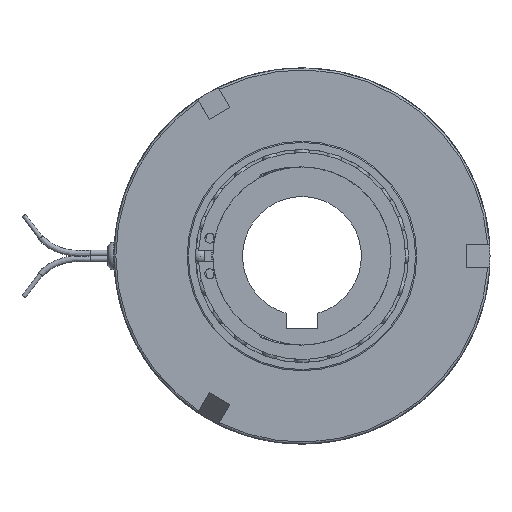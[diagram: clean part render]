
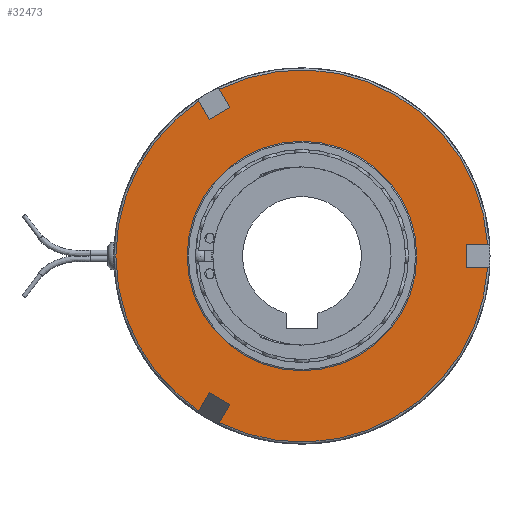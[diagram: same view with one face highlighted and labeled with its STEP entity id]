
A CAD part, left-side view. The second image highlights one B-rep face of the part: STEP entity #32473.
In plain terms, the highlighted planar face has unit normal (-1, 0, 0).
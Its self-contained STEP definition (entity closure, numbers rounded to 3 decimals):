
#194=FACE_BOUND('',#4288,.T.);
#954=PLANE('',#35729);
#2550=FACE_OUTER_BOUND('',#4287,.T.);
#4287=EDGE_LOOP('',(#25926,#25927,#25928,#25929,#25930,#25931,#25932,#25933,
#25934,#25935,#25936,#25937));
#4288=EDGE_LOOP('',(#25938,#25939));
#7927=CIRCLE('',#35730,47.);
#7928=CIRCLE('',#35731,47.);
#7929=CIRCLE('',#35732,47.);
#7930=CIRCLE('',#35733,29.);
#7931=CIRCLE('',#35734,29.);
#9466=LINE('',#57323,#11250);
#9468=LINE('',#57337,#11252);
#9470=LINE('',#57341,#11254);
#9471=LINE('',#57355,#11255);
#9474=LINE('',#57372,#11258);
#9476=LINE('',#57378,#11260);
#9478=LINE('',#57396,#11262);
#9479=LINE('',#57398,#11263);
#9480=LINE('',#57400,#11264);
#11250=VECTOR('',#43767,10.);
#11252=VECTOR('',#43771,10.);
#11254=VECTOR('',#43775,10.);
#11255=VECTOR('',#43778,10.);
#11258=VECTOR('',#43783,10.);
#11260=VECTOR('',#43789,10.);
#11262=VECTOR('',#43797,10.);
#11263=VECTOR('',#43798,10.);
#11264=VECTOR('',#43799,10.);
#13942=VERTEX_POINT('',#57321);
#13943=VERTEX_POINT('',#57322);
#13944=VERTEX_POINT('',#57336);
#13945=VERTEX_POINT('',#57340);
#13946=VERTEX_POINT('',#57353);
#13947=VERTEX_POINT('',#57354);
#13950=VERTEX_POINT('',#57371);
#13952=VERTEX_POINT('',#57377);
#13954=VERTEX_POINT('',#57393);
#13955=VERTEX_POINT('',#57395);
#13956=VERTEX_POINT('',#57397);
#13957=VERTEX_POINT('',#57399);
#13958=VERTEX_POINT('',#57402);
#13959=VERTEX_POINT('',#57403);
#18259=EDGE_CURVE('',#13942,#13943,#9466,.T.);
#18262=EDGE_CURVE('',#13944,#13942,#9468,.T.);
#18264=EDGE_CURVE('',#13945,#13944,#9470,.T.);
#18266=EDGE_CURVE('',#13946,#13947,#9471,.T.);
#18270=EDGE_CURVE('',#13950,#13946,#9474,.T.);
#18273=EDGE_CURVE('',#13952,#13950,#9476,.T.);
#18276=EDGE_CURVE('',#13952,#13943,#7927,.T.);
#18277=EDGE_CURVE('',#13954,#13947,#7928,.T.);
#18278=EDGE_CURVE('',#13954,#13955,#9478,.T.);
#18279=EDGE_CURVE('',#13955,#13956,#9479,.T.);
#18280=EDGE_CURVE('',#13956,#13957,#9480,.T.);
#18281=EDGE_CURVE('',#13945,#13957,#7929,.T.);
#18282=EDGE_CURVE('',#13958,#13959,#7930,.T.);
#18283=EDGE_CURVE('',#13959,#13958,#7931,.T.);
#25926=ORIENTED_EDGE('',*,*,#18264,.T.);
#25927=ORIENTED_EDGE('',*,*,#18262,.T.);
#25928=ORIENTED_EDGE('',*,*,#18259,.T.);
#25929=ORIENTED_EDGE('',*,*,#18276,.F.);
#25930=ORIENTED_EDGE('',*,*,#18273,.T.);
#25931=ORIENTED_EDGE('',*,*,#18270,.T.);
#25932=ORIENTED_EDGE('',*,*,#18266,.T.);
#25933=ORIENTED_EDGE('',*,*,#18277,.F.);
#25934=ORIENTED_EDGE('',*,*,#18278,.T.);
#25935=ORIENTED_EDGE('',*,*,#18279,.T.);
#25936=ORIENTED_EDGE('',*,*,#18280,.T.);
#25937=ORIENTED_EDGE('',*,*,#18281,.F.);
#25938=ORIENTED_EDGE('',*,*,#18282,.T.);
#25939=ORIENTED_EDGE('',*,*,#18283,.T.);
#32473=ADVANCED_FACE('',(#2550,#194),#954,.T.);
#35729=AXIS2_PLACEMENT_3D('',#57391,#43791,#43792);
#35730=AXIS2_PLACEMENT_3D('',#57392,#43793,#43794);
#35731=AXIS2_PLACEMENT_3D('',#57394,#43795,#43796);
#35732=AXIS2_PLACEMENT_3D('',#57401,#43800,#43801);
#35733=AXIS2_PLACEMENT_3D('',#57404,#43802,#43803);
#35734=AXIS2_PLACEMENT_3D('',#57405,#43804,#43805);
#43767=DIRECTION('',(0.,0.5,0.866));
#43771=DIRECTION('',(0.,0.866,-0.5));
#43775=DIRECTION('',(0.,-0.5,-0.866));
#43778=DIRECTION('',(0.,0.5,-0.866));
#43783=DIRECTION('',(0.,-0.866,-0.5));
#43789=DIRECTION('',(0.,-0.5,0.866));
#43791=DIRECTION('center_axis',(-1.,0.,0.));
#43792=DIRECTION('ref_axis',(0.,0.,1.));
#43793=DIRECTION('center_axis',(1.,0.,0.));
#43794=DIRECTION('ref_axis',(0.,-1.,0.));
#43795=DIRECTION('center_axis',(1.,0.,0.));
#43796=DIRECTION('ref_axis',(0.,-1.,0.));
#43797=DIRECTION('',(0.,1.,0.));
#43798=DIRECTION('',(0.,0.,1.));
#43799=DIRECTION('',(0.,-1.,0.));
#43800=DIRECTION('center_axis',(1.,0.,0.));
#43801=DIRECTION('ref_axis',(0.,-1.,0.));
#43802=DIRECTION('center_axis',(1.,0.,0.));
#43803=DIRECTION('ref_axis',(0.,1.,0.));
#43804=DIRECTION('center_axis',(1.,0.,0.));
#43805=DIRECTION('ref_axis',(0.,1.,0.));
#57321=CARTESIAN_POINT('',(-20.25,23.373,34.484));
#57322=CARTESIAN_POINT('',(-20.25,26.05,39.12));
#57323=CARTESIAN_POINT('',(-20.25,18.901,26.738));
#57336=CARTESIAN_POINT('',(-20.25,18.177,37.484));
#57337=CARTESIAN_POINT('',(-20.25,35.119,27.702));
#57340=CARTESIAN_POINT('',(-20.25,20.854,42.12));
#57341=CARTESIAN_POINT('',(-20.25,13.705,29.738));
#57353=CARTESIAN_POINT('',(-20.25,18.177,-37.484));
#57354=CARTESIAN_POINT('',(-20.25,20.854,-42.12));
#57355=CARTESIAN_POINT('',(-20.25,13.705,-29.738));
#57371=CARTESIAN_POINT('',(-20.25,23.373,-34.484));
#57372=CARTESIAN_POINT('',(-20.25,35.119,-27.702));
#57377=CARTESIAN_POINT('',(-20.25,26.05,-39.12));
#57378=CARTESIAN_POINT('',(-20.25,18.901,-26.738));
#57391=CARTESIAN_POINT('Origin',(-20.25,38.25,0.));
#57392=CARTESIAN_POINT('Origin',(-20.25,0.,0.));
#57393=CARTESIAN_POINT('',(-20.25,-46.904,-3.));
#57394=CARTESIAN_POINT('Origin',(-20.25,0.,0.));
#57395=CARTESIAN_POINT('',(-20.25,-41.55,-3.));
#57396=CARTESIAN_POINT('',(-20.25,-3.919,-3.));
#57397=CARTESIAN_POINT('',(-20.25,-41.55,3.));
#57398=CARTESIAN_POINT('',(-20.25,-41.55,0.));
#57399=CARTESIAN_POINT('',(-20.25,-46.904,3.));
#57400=CARTESIAN_POINT('',(-20.25,-3.919,3.));
#57401=CARTESIAN_POINT('Origin',(-20.25,0.,0.));
#57402=CARTESIAN_POINT('',(-20.25,29.,0.));
#57403=CARTESIAN_POINT('',(-20.25,-29.,0.));
#57404=CARTESIAN_POINT('Origin',(-20.25,0.,0.));
#57405=CARTESIAN_POINT('Origin',(-20.25,0.,0.));
